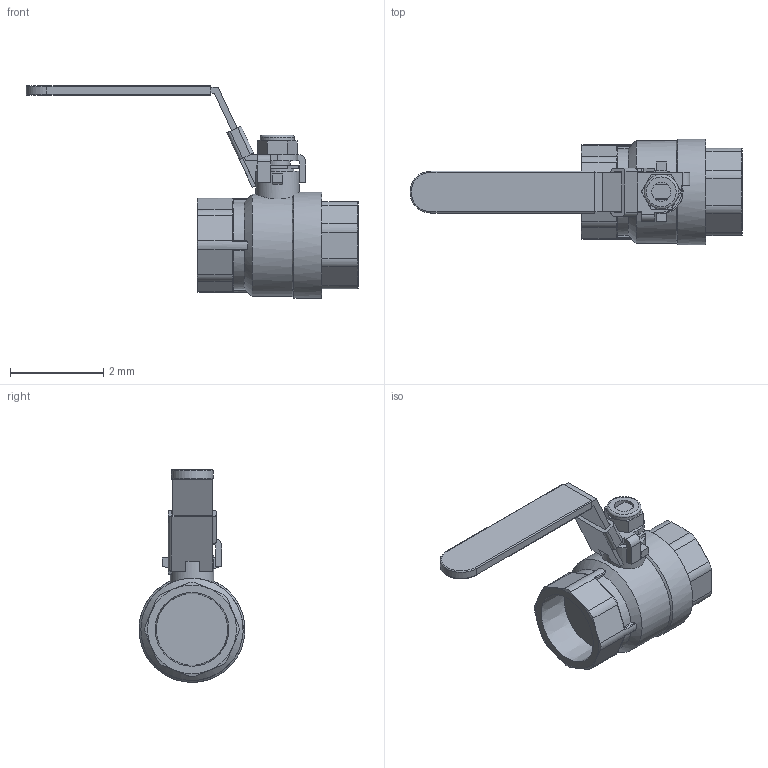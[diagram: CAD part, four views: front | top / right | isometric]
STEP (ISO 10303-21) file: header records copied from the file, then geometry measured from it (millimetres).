
FILE_DESCRIPTION(('Open CASCADE Model'),'2;1');
FILE_NAME('Open CASCADE Shape Model','2022-06-21T15:35:21',('Author'),( 'Open CASCADE'),'Open CASCADE STEP processor 7.3','Open CASCADE 7.3' ,'Unknown');
FILE_SCHEMA(('AUTOMOTIVE_DESIGN { 1 0 10303 214 1 1 1 1 }'));
Length unit declared in the file: millimetre
Products named in the file (1): Open CASCADE STEP translator 7.3 1
Bounding box: 7.13 x 2.27 x 4.57 mm (x, y, z)
Volume: 10.9 mm3; surface area: 61.5 mm2
Topology: 1 solids, 1 shells, 229 faces, 598 edges, 381 vertices
Faces by surface type: plane 129, cylinder 65, cone 20, torus 15
Full cylindrical faces by diameter (mm): 0.41 x1, 0.55 x1, 0.58 x1, 0.715 x1, 0.74 x1, 0.935 x1, 2.195 x1, 2.275 x1
Entity records: 19312 total; most frequent: CARTESIAN_POINT 7913, DIRECTION 2018, ORIENTED_EDGE 1196, PCURVE 1196, DEFINITIONAL_REPRESENTATION 1196, LINE 1187, VECTOR 1187, EDGE_CURVE 598
